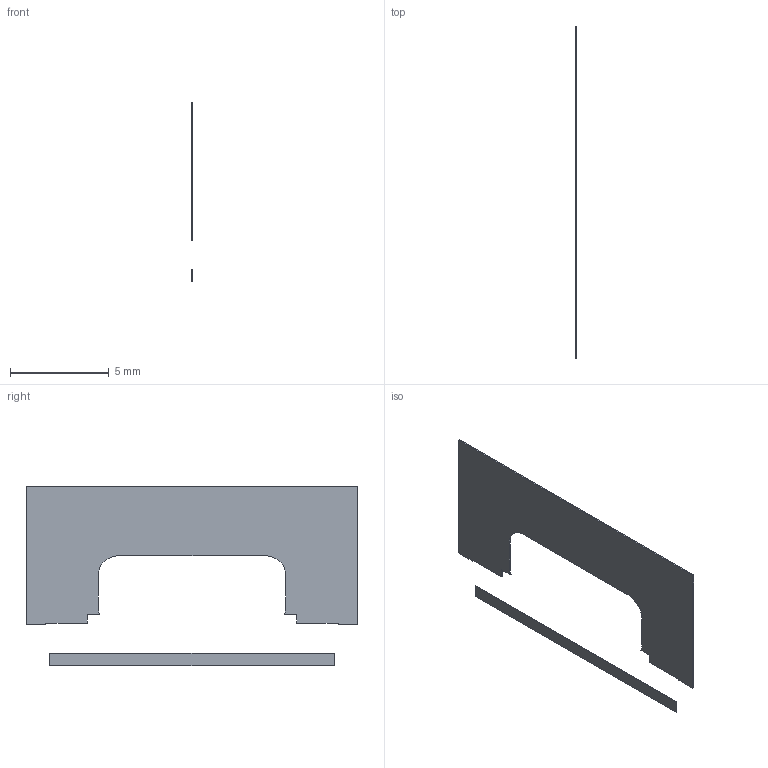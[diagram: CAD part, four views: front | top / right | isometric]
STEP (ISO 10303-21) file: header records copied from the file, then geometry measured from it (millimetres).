
FILE_DESCRIPTION(('Open CASCADE Model'),'2;1');
FILE_NAME('USB_liner_backers','2026-09-21T22:33:44',('Author'),( 'Open CASCADE'),'Open CASCADE STEP processor 7.9','build123d', 'Unknown');
FILE_SCHEMA(('AUTOMOTIVE_DESIGN { 1 0 10303 214 1 1 1 1 }'));
Length unit declared in the file: millimetre
Products named in the file (2): USB_liner_backers
Assembly tree (1 placements, depth 2):
  USB_liner_backers
    USB_liner_backers
Bounding box: 0.06 x 16.8 x 9.1 mm (x, y, z)
Volume: 6 mm3; surface area: 192.3 mm2
Topology: 2 solids, 2 shells, 28 faces, 72 edges, 48 vertices
Faces by surface type: plane 24, cylinder 4
Entity records: 903 total; most frequent: CARTESIAN_POINT 150, ORIENTED_EDGE 144, DIRECTION 140, EDGE_CURVE 72, LINE 64, VECTOR 64, VERTEX_POINT 48, AXIS2_PLACEMENT_3D 38
